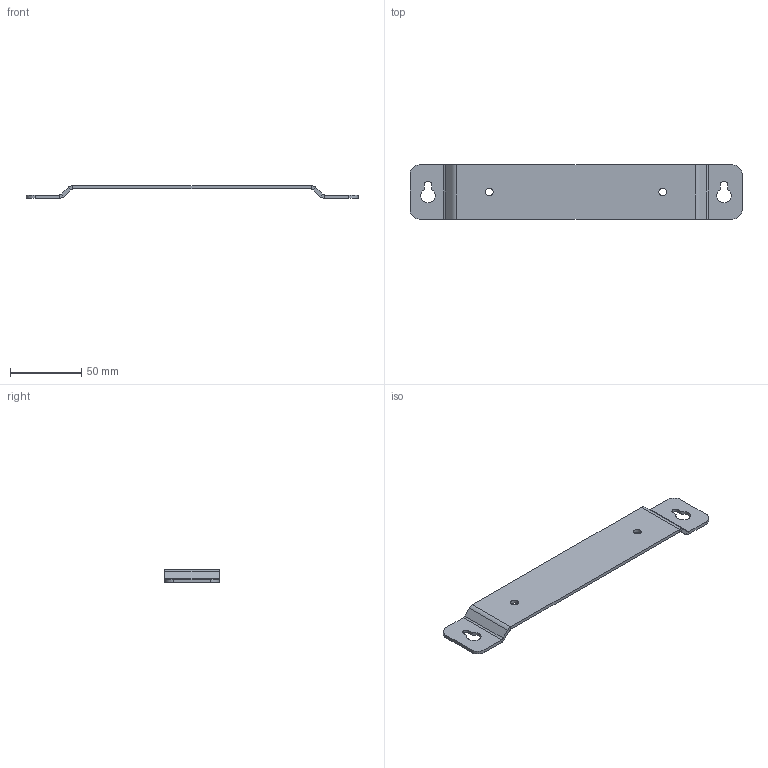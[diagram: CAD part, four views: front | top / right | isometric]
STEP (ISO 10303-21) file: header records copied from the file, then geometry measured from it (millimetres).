
FILE_DESCRIPTION((''),'2;1');
FILE_NAME('CD_USB_M-SERIES_PANEL_MOUNT','2008-06-03T',('scarrasc'),(''),'PRO/ENGINEER BY PARAMETRIC TECHNOLOGY CORPORATION, 2006080','PRO/ENGINEER BY PARAMETRIC TECHNOLOGY CORPORATION, 2006080','');
FILE_SCHEMA(('CONFIG_CONTROL_DESIGN'));
Length unit declared in the file: inch
Products named in the file (1): CD_USB_M-SERIES_PANEL_MOUNT
Bounding box: 233.39 x 38.1 x 8.8 mm (x, y, z)
Volume: 20080.4 mm3; surface area: 19071.7 mm2
Topology: 1 solids, 1 shells, 54 faces, 124 edges, 72 vertices
Faces by surface type: plane 34, cylinder 20
Entity records: 1548 total; most frequent: DIRECTION 272, CARTESIAN_POINT 250, ORIENTED_EDGE 248, EDGE_CURVE 124, AXIS2_PLACEMENT_3D 94, VECTOR 84, LINE 84, VERTEX_POINT 72
